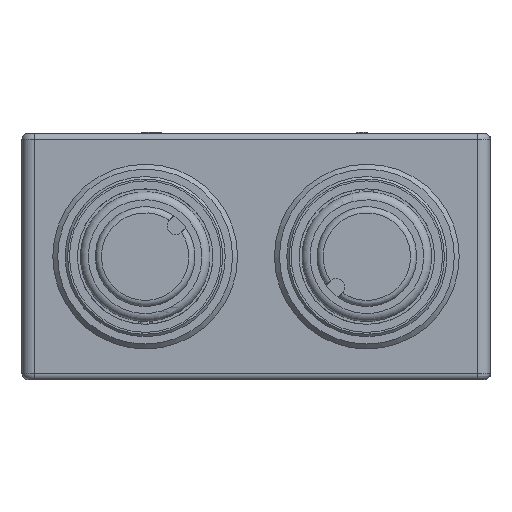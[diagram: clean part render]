
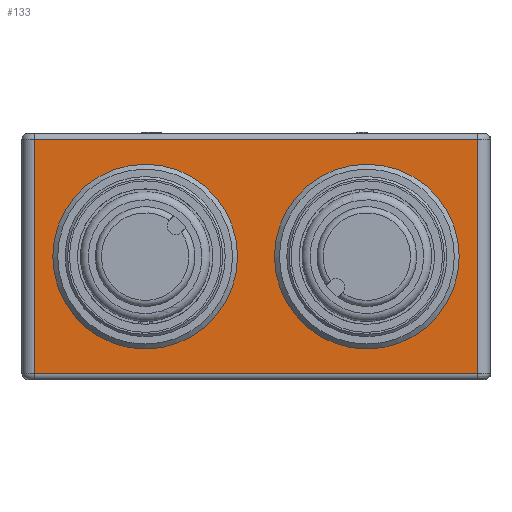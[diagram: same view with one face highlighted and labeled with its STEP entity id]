
A CAD part, left-side view. The second image highlights one B-rep face of the part: STEP entity #133.
In plain terms, the highlighted planar face has unit normal (-1, 0, 0).
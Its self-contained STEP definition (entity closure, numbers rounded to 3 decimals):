
#72=CARTESIAN_POINT('',(-11.5,-18.,-10.0));
#73=DIRECTION('',(-1.0,0.0,0.0));
#74=DIRECTION('',(0.0,0.0,1.0));
#75=AXIS2_PLACEMENT_3D('',#72,#73,#74);
#76=PLANE('',#75);
#77=CARTESIAN_POINT('',(-11.5,-18.,-9.5));
#78=VERTEX_POINT('',#77);
#79=CARTESIAN_POINT('',(-11.5,18.,-9.5));
#80=VERTEX_POINT('',#79);
#81=CARTESIAN_POINT('',(-11.5,-18.,-9.5));
#82=DIRECTION('',(0.0,1.0,0.0));
#83=VECTOR('',#82,36.0);
#84=LINE('',#81,#83);
#85=EDGE_CURVE('',#78,#80,#84,.T.);
#86=ORIENTED_EDGE('',*,*,#85,.F.);
#87=CARTESIAN_POINT('',(-11.5,-18.,9.5));
#88=VERTEX_POINT('',#87);
#89=CARTESIAN_POINT('',(-11.5,-18.,-9.5));
#90=DIRECTION('',(0.0,0.0,1.0));
#91=VECTOR('',#90,19.0);
#92=LINE('',#89,#91);
#93=EDGE_CURVE('',#78,#88,#92,.T.);
#94=ORIENTED_EDGE('',*,*,#93,.T.);
#95=CARTESIAN_POINT('',(-11.5,18.,9.5));
#96=VERTEX_POINT('',#95);
#97=CARTESIAN_POINT('',(-11.5,18.,9.5));
#98=DIRECTION('',(0.0,-1.0,0.0));
#99=VECTOR('',#98,36.0);
#100=LINE('',#97,#99);
#101=EDGE_CURVE('',#96,#88,#100,.T.);
#102=ORIENTED_EDGE('',*,*,#101,.F.);
#103=CARTESIAN_POINT('',(-11.5,18.,-9.5));
#104=DIRECTION('',(0.0,0.0,1.0));
#105=VECTOR('',#104,19.0);
#106=LINE('',#103,#105);
#107=EDGE_CURVE('',#80,#96,#106,.T.);
#108=ORIENTED_EDGE('',*,*,#107,.F.);
#109=EDGE_LOOP('',(#86,#94,#102,#108));
#110=FACE_OUTER_BOUND('',#109,.T.);
#111=CARTESIAN_POINT('',(-11.5,-9.0,5.75));
#112=VERTEX_POINT('',#111);
#113=CARTESIAN_POINT('',(-11.5,-9.0,0.));
#114=DIRECTION('',(1.0,0.0,0.0));
#115=DIRECTION('',(0.0,0.0,1.0));
#116=AXIS2_PLACEMENT_3D('',#113,#114,#115);
#117=CIRCLE('',#116,5.75);
#118=EDGE_CURVE('',#112,#112,#117,.T.);
#119=ORIENTED_EDGE('',*,*,#118,.T.);
#120=EDGE_LOOP('',(#119));
#121=FACE_BOUND('',#120,.T.);
#122=CARTESIAN_POINT('',(-11.5,9.0,-5.75));
#123=VERTEX_POINT('',#122);
#124=CARTESIAN_POINT('',(-11.5,9.0,0.));
#125=DIRECTION('',(1.0,0.0,0.0));
#126=DIRECTION('',(0.0,0.0,-1.0));
#127=AXIS2_PLACEMENT_3D('',#124,#125,#126);
#128=CIRCLE('',#127,5.75);
#129=EDGE_CURVE('',#123,#123,#128,.T.);
#130=ORIENTED_EDGE('',*,*,#129,.T.);
#131=EDGE_LOOP('',(#130));
#132=FACE_BOUND('',#131,.T.);
#133=ADVANCED_FACE('',(#110,#121,#132),#76,.T.);
